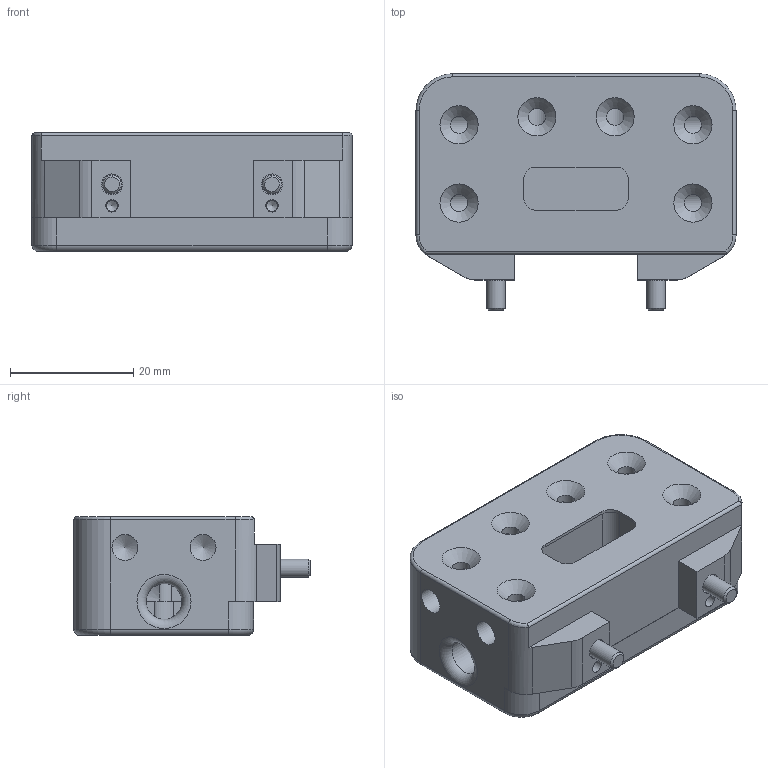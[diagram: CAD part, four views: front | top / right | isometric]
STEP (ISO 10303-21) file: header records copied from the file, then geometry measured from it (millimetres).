
FILE_DESCRIPTION(/* description */ (''),/* implementation_level */ '2;1');
FILE_NAME(/* name */ 'T:\CAD\Standard\SHW\SEK-P\SEK100\SEK100-6PM5-1FE12\G-SEK100-U-6PM5.stp',/* time_stamp */ '2022-02-15T14:40:11+01:00',/* author */ ('vbednarz'),/* organization */ (''),/* preprocessor_version */ 'ST-DEVELOPER v17',/* originating_system */ 'Autodesk Inventor 2018',/* authorisation */ '');
FILE_SCHEMA (('AUTOMOTIVE_DESIGN { 1 0 10303 214 3 1 1 }'));
Length unit declared in the file: millimetre
Products named in the file (1): G-SEK100-U-6PM5-1FE12-40-M8.step
Bounding box: 52 x 38.4 x 19.3 mm (x, y, z)
Volume: 24646.1 mm3; surface area: 10713.3 mm2
Topology: 3 solids, 11 shells, 229 faces, 630 edges, 434 vertices
Faces by surface type: plane 101, cylinder 73, cone 32, torus 21, bspline 2
Full cylindrical faces by diameter (mm): 1.8 x2, 2.02 x2, 2.05 x4, 2.5 x4, 2.8 x6, 2.9 x4, 3 x2, 3.4 x2, 4.2 x6, 4.5 x4, 5 x4, 5.5 x2, 5.8 x1, 6 x2
Entity records: 8393 total; most frequent: CARTESIAN_POINT 2152, DIRECTION 1283, ORIENTED_EDGE 1220, EDGE_CURVE 610, AXIS2_PLACEMENT_3D 508, VERTEX_POINT 432, EDGE_LOOP 284, CIRCLE 280
